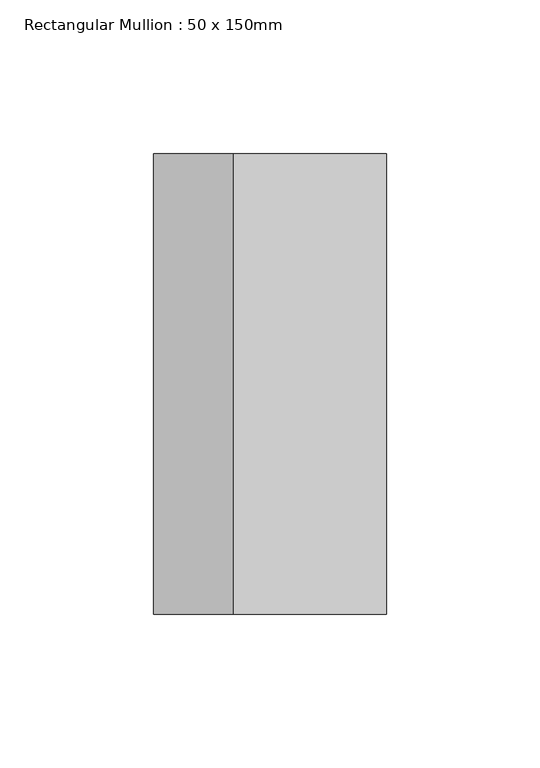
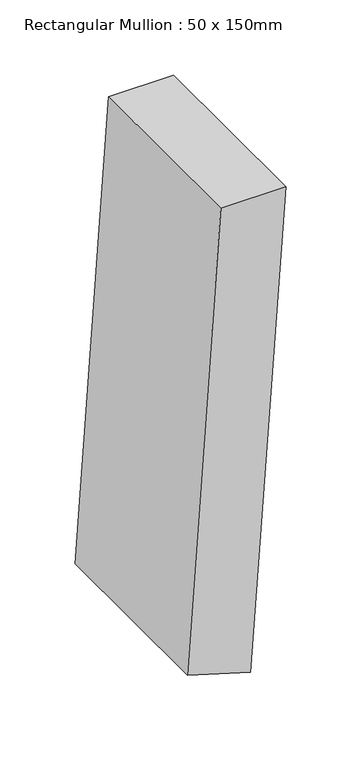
"""IFC4 building model written with IfcOpenShell, lengths in millimetres: member geometry, Rectangular Mullion : 50 x 150mm."""

from ifc_helpers import new_model, si_unit, point, frame, frame_2d, origin, place, context, project, spatial, polyline, circle_curve, trimmed, segment, composite_curve, outline, extrude, source, transform, mapped, element, save


def rectangular_mullion_50_x_150mm_7041efae(model_context):
    return source(origin(), model_context, "Body", "SweptSolid", [
        extrude(outline(composite_curve([segment(trimmed(circle_curve(frame_2d((0.0, -2710.0942185)), 2710.0942185), [point((-385.0883598, -27.4989027))], [point((0.0, 0.0))], False, "CARTESIAN"), True, "CONTINUOUS"), segment(polyline([(0.0, 0.0), (0.0, -50.0)]), True, "CONTINUOUS"), segment(trimmed(circle_curve(frame_2d((0.0, -2710.0942185)), 2660.0942185), [point((0.0, -50.0))], [point((-370.7738183, -75.9666538))], True, "CARTESIAN"), True, "CONTINUOUS"), segment(polyline([(-370.7738183, -75.9666538), (-385.0883598, -27.4989027)]), True, "CONTINUOUS")], self_intersect=False)), frame((0.0, -75.0, 0.0), z_axis=(0.0, 1.0, 0.0), x_axis=(0.0, 0.0, 1.0)), (0.0, 0.0, 1.0), 150.0),
    ])


if __name__ == "__main__":
    model = new_model("IFC4")
    model_context = context("Model", 3, world=origin())
    ifc_project = project(units=[si_unit("LENGTHUNIT", "METRE", prefix="MILLI")], contexts=[model_context])
    site = spatial("IfcSite", under=ifc_project)
    building = spatial("IfcBuilding", under=site)
    placement = place(None, origin())
    rectangular_mullion_50_x_150mm_shape = rectangular_mullion_50_x_150mm_7041efae(model_context)
    element("IfcMember", 1, ObjectType="Rectangular Mullion : 50 x 150mm", at=placement, inside=building, context=model_context, shape_type="MappedRepresentation", body=[
        mapped(rectangular_mullion_50_x_150mm_shape, transform((0.0, 0.0, 0.0), x_axis=(1.0, 0.0, 0.0), y_axis=(0.0, 1.0, 0.0), z_axis=(0.0, 0.0, 1.0))),
    ])
    save(model, "model.ifc")
